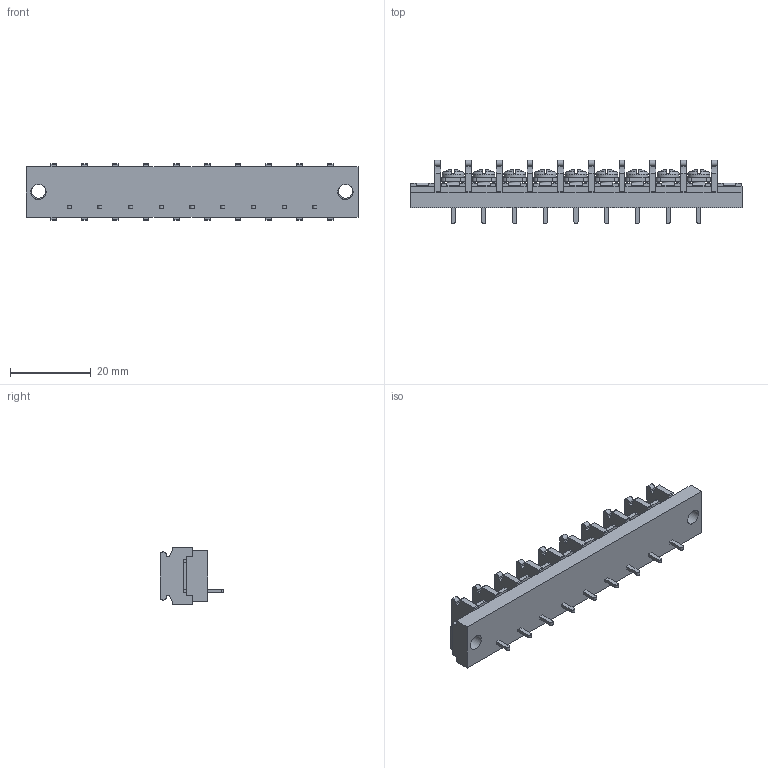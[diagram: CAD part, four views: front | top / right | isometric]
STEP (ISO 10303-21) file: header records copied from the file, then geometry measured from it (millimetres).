
FILE_DESCRIPTION(/* description */ ('Alibre Inc.'),/* implementation_level */ '2;1');
FILE_NAME(/* name */ 'export0',/* time_stamp */ '2015-10-23T19:39:11+09:00',/* author */ (''),/* organization */ (''),/* preprocessor_version */ 'ST-DEVELOPER v14',/* originating_system */ 'Alibre',/* authorisation */ '');
FILE_SCHEMA (('CONFIG_CONTROL_DESIGN'));
Length unit declared in the file: centimetre
Products named in the file (1): ID_1
Bounding box: 82.4 x 15.8 x 14 mm (x, y, z)
Volume: 7359.3 mm3; surface area: 6958.6 mm2
Topology: 1 solids, 17 shells, 1478 faces, 4033 edges, 2647 vertices
Faces by surface type: plane 1144, cylinder 158, bspline 104, cone 36, torus 18, sphere 18
Full cylindrical faces by diameter (mm): 3 x9, 3.5 x2, 3.8 x2, 5.5 x9
Entity records: 44308 total; most frequent: CARTESIAN_POINT 9608, ORIENTED_EDGE 7906, DIRECTION 5573, EDGE_CURVE 3953, VECTOR 2876, LINE 2876, VERTEX_POINT 2607, AXIS2_PLACEMENT_3D 1869
